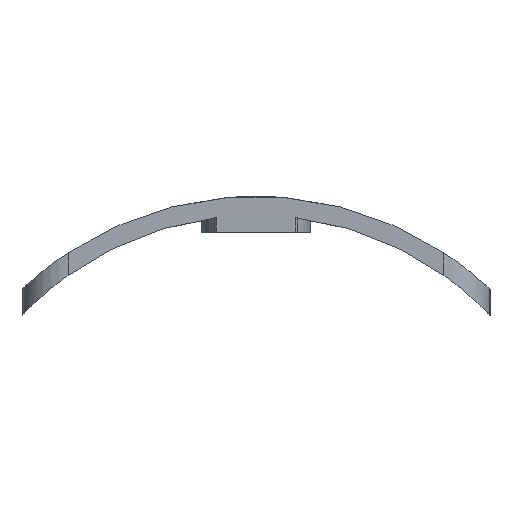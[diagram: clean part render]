
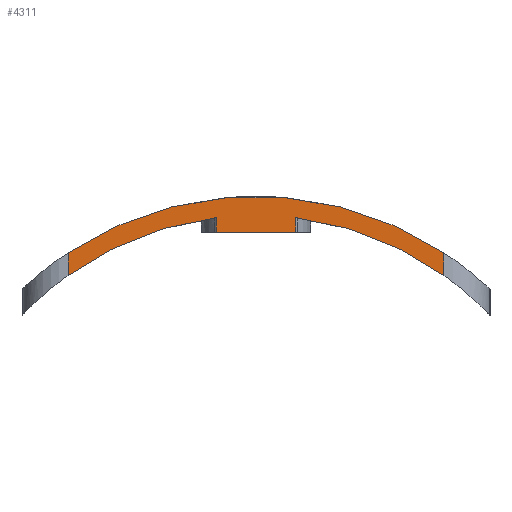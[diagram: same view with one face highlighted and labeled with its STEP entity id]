
A CAD part, left-side view. The second image highlights one B-rep face of the part: STEP entity #4311.
In plain terms, the highlighted planar face has unit normal (-1, 0, 0).
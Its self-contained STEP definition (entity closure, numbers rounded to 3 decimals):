
#22 = VERTEX_POINT('',#23);
#23 = CARTESIAN_POINT('',(96.3,11.,16.703));
#61 = CYLINDRICAL_SURFACE('',#62,20.);
#62 = AXIS2_PLACEMENT_3D('',#63,#64,#65);
#63 = CARTESIAN_POINT('',(95.,0.,0.));
#64 = DIRECTION('',(1.,0.,0.));
#65 = DIRECTION('',(-0.,0.,1.));
#102 = CYLINDRICAL_SURFACE('',#103,2.7);
#103 = AXIS2_PLACEMENT_3D('',#104,#105,#106);
#104 = CARTESIAN_POINT('',(99.,11.,5.));
#105 = DIRECTION('',(0.,0.,1.));
#106 = DIRECTION('',(-1.,-0.,0.));
#143 = EDGE_CURVE('',#22,#144,#146,.T.);
#144 = VERTEX_POINT('',#145);
#145 = CARTESIAN_POINT('',(96.3,-11.,16.703));
#146 = SURFACE_CURVE('',#147,(#152,#159),.PCURVE_S1.);
#147 = CIRCLE('',#148,20.);
#148 = AXIS2_PLACEMENT_3D('',#149,#150,#151);
#149 = CARTESIAN_POINT('',(96.3,0.,0.));
#150 = DIRECTION('',(1.,0.,0.));
#151 = DIRECTION('',(-0.,0.55,0.835));
#152 = PCURVE('',#61,#153);
#153 = DEFINITIONAL_REPRESENTATION('',(#154),#158);
#154 = LINE('',#155,#156);
#155 = CARTESIAN_POINT('',(5.701,1.3));
#156 = VECTOR('',#157,1.);
#157 = DIRECTION('',(1.,0.));
#158 = ( GEOMETRIC_REPRESENTATION_CONTEXT(2) 
PARAMETRIC_REPRESENTATION_CONTEXT() REPRESENTATION_CONTEXT('2D SPACE',''
  ) );
#159 = PCURVE('',#160,#165);
#160 = PLANE('',#161);
#161 = AXIS2_PLACEMENT_3D('',#162,#163,#164);
#162 = CARTESIAN_POINT('',(96.3,-13.7,5.));
#163 = DIRECTION('',(1.,0.,0.));
#164 = DIRECTION('',(0.,0.,1.));
#165 = DEFINITIONAL_REPRESENTATION('',(#166),#170);
#166 = CIRCLE('',#167,20.);
#167 = AXIS2_PLACEMENT_2D('',#168,#169);
#168 = CARTESIAN_POINT('',(-5.,-13.7));
#169 = DIRECTION('',(0.835,-0.55));
#170 = ( GEOMETRIC_REPRESENTATION_CONTEXT(2) 
PARAMETRIC_REPRESENTATION_CONTEXT() REPRESENTATION_CONTEXT('2D SPACE',''
  ) );
#246 = CYLINDRICAL_SURFACE('',#247,2.7);
#247 = AXIS2_PLACEMENT_3D('',#248,#249,#250);
#248 = CARTESIAN_POINT('',(99.,-11.,5.));
#249 = DIRECTION('',(0.,0.,1.));
#250 = DIRECTION('',(-1.,-0.,0.));
#2237 = PLANE('',#2238);
#2238 = AXIS2_PLACEMENT_3D('',#2239,#2240,#2241);
#2239 = CARTESIAN_POINT('',(98.5,0.,17.9));
#2240 = DIRECTION('',(0.,0.,1.));
#2241 = DIRECTION('',(1.,0.,-0.));
#2285 = VERTEX_POINT('',#2286);
#2286 = CARTESIAN_POINT('',(96.3,2.331,17.9));
#2300 = PLANE('',#2301);
#2301 = AXIS2_PLACEMENT_3D('',#2302,#2303,#2304);
#2302 = CARTESIAN_POINT('',(93.522,0.,17.9));
#2303 = DIRECTION('',(-0.643,0.766,0.));
#2304 = DIRECTION('',(0.766,0.643,0.));
#2312 = EDGE_CURVE('',#2285,#2313,#2315,.T.);
#2313 = VERTEX_POINT('',#2314);
#2314 = CARTESIAN_POINT('',(96.3,-2.331,17.9));
#2315 = SURFACE_CURVE('',#2316,(#2320,#2327),.PCURVE_S1.);
#2316 = LINE('',#2317,#2318);
#2317 = CARTESIAN_POINT('',(96.3,2.331,17.9));
#2318 = VECTOR('',#2319,1.);
#2319 = DIRECTION('',(0.,-1.,0.));
#2320 = PCURVE('',#2237,#2321);
#2321 = DEFINITIONAL_REPRESENTATION('',(#2322),#2326);
#2322 = LINE('',#2323,#2324);
#2323 = CARTESIAN_POINT('',(-2.2,2.331));
#2324 = VECTOR('',#2325,1.);
#2325 = DIRECTION('',(0.,-1.));
#2326 = ( GEOMETRIC_REPRESENTATION_CONTEXT(2) 
PARAMETRIC_REPRESENTATION_CONTEXT() REPRESENTATION_CONTEXT('2D SPACE',''
  ) );
#2327 = PCURVE('',#160,#2328);
#2328 = DEFINITIONAL_REPRESENTATION('',(#2329),#2333);
#2329 = LINE('',#2330,#2331);
#2330 = CARTESIAN_POINT('',(12.9,-16.031));
#2331 = VECTOR('',#2332,1.);
#2332 = DIRECTION('',(0.,1.));
#2333 = ( GEOMETRIC_REPRESENTATION_CONTEXT(2) 
PARAMETRIC_REPRESENTATION_CONTEXT() REPRESENTATION_CONTEXT('2D SPACE',''
  ) );
#2349 = PLANE('',#2350);
#2350 = AXIS2_PLACEMENT_3D('',#2351,#2352,#2353);
#2351 = CARTESIAN_POINT('',(96.443,-2.451,17.9));
#2352 = DIRECTION('',(-0.643,-0.766,0.));
#2353 = DIRECTION('',(-0.766,0.643,0.));
#2391 = VERTEX_POINT('',#2392);
#2392 = CARTESIAN_POINT('',(96.3,-2.331,18.756));
#2407 = CYLINDRICAL_SURFACE('',#2408,18.9);
#2408 = AXIS2_PLACEMENT_3D('',#2409,#2410,#2411);
#2409 = CARTESIAN_POINT('',(94.,0.,0.));
#2410 = DIRECTION('',(1.,0.,0.));
#2411 = DIRECTION('',(-0.,0.,1.));
#2422 = EDGE_CURVE('',#2313,#2391,#2423,.T.);
#2423 = SURFACE_CURVE('',#2424,(#2428,#2434),.PCURVE_S1.);
#2424 = LINE('',#2425,#2426);
#2425 = CARTESIAN_POINT('',(96.3,-2.331,8.95));
#2426 = VECTOR('',#2427,1.);
#2427 = DIRECTION('',(0.,0.,1.));
#2428 = PCURVE('',#2349,#2429);
#2429 = DEFINITIONAL_REPRESENTATION('',(#2430),#2433);
#2430 = B_SPLINE_CURVE_WITH_KNOTS('',1,(#2431,#2432),.UNSPECIFIED.,.F.,
  .F.,(2,2),(8.95,10.25),.PIECEWISE_BEZIER_KNOTS.);
#2431 = CARTESIAN_POINT('',(0.187,0.));
#2432 = CARTESIAN_POINT('',(0.187,-1.3));
#2433 = ( GEOMETRIC_REPRESENTATION_CONTEXT(2) 
PARAMETRIC_REPRESENTATION_CONTEXT() REPRESENTATION_CONTEXT('2D SPACE',''
  ) );
#2434 = PCURVE('',#160,#2435);
#2435 = DEFINITIONAL_REPRESENTATION('',(#2436),#2440);
#2436 = LINE('',#2437,#2438);
#2437 = CARTESIAN_POINT('',(3.95,-11.369));
#2438 = VECTOR('',#2439,1.);
#2439 = DIRECTION('',(1.,0.));
#2440 = ( GEOMETRIC_REPRESENTATION_CONTEXT(2) 
PARAMETRIC_REPRESENTATION_CONTEXT() REPRESENTATION_CONTEXT('2D SPACE',''
  ) );
#2704 = EDGE_CURVE('',#2391,#2705,#2707,.T.);
#2705 = VERTEX_POINT('',#2706);
#2706 = CARTESIAN_POINT('',(96.3,-11.,15.369));
#2707 = SURFACE_CURVE('',#2708,(#2713,#2719),.PCURVE_S1.);
#2708 = CIRCLE('',#2709,18.9);
#2709 = AXIS2_PLACEMENT_3D('',#2710,#2711,#2712);
#2710 = CARTESIAN_POINT('',(96.3,0.,0.));
#2711 = DIRECTION('',(1.,0.,0.));
#2712 = DIRECTION('',(-0.,0.,1.));
#2713 = PCURVE('',#2407,#2714);
#2714 = DEFINITIONAL_REPRESENTATION('',(#2715),#2718);
#2715 = B_SPLINE_CURVE_WITH_KNOTS('',1,(#2716,#2717),.UNSPECIFIED.,.F.,
  .F.,(2,2),(0.124,0.621),.PIECEWISE_BEZIER_KNOTS.);
#2716 = CARTESIAN_POINT('',(6.407,2.3));
#2717 = CARTESIAN_POINT('',(6.904,2.3));
#2718 = ( GEOMETRIC_REPRESENTATION_CONTEXT(2) 
PARAMETRIC_REPRESENTATION_CONTEXT() REPRESENTATION_CONTEXT('2D SPACE',''
  ) );
#2719 = PCURVE('',#160,#2720);
#2720 = DEFINITIONAL_REPRESENTATION('',(#2721),#2725);
#2721 = CIRCLE('',#2722,18.9);
#2722 = AXIS2_PLACEMENT_2D('',#2723,#2724);
#2723 = CARTESIAN_POINT('',(-5.,-13.7));
#2724 = DIRECTION('',(1.,0.));
#2725 = ( GEOMETRIC_REPRESENTATION_CONTEXT(2) 
PARAMETRIC_REPRESENTATION_CONTEXT() REPRESENTATION_CONTEXT('2D SPACE',''
  ) );
#3380 = VERTEX_POINT('',#3381);
#3381 = CARTESIAN_POINT('',(96.3,11.,15.369));
#3489 = EDGE_CURVE('',#3380,#3490,#3492,.T.);
#3490 = VERTEX_POINT('',#3491);
#3491 = CARTESIAN_POINT('',(96.3,2.331,18.756));
#3492 = SURFACE_CURVE('',#3493,(#3498,#3504),.PCURVE_S1.);
#3493 = CIRCLE('',#3494,18.9);
#3494 = AXIS2_PLACEMENT_3D('',#3495,#3496,#3497);
#3495 = CARTESIAN_POINT('',(96.3,0.,0.));
#3496 = DIRECTION('',(1.,0.,0.));
#3497 = DIRECTION('',(-0.,0.,1.));
#3498 = PCURVE('',#2407,#3499);
#3499 = DEFINITIONAL_REPRESENTATION('',(#3500),#3503);
#3500 = B_SPLINE_CURVE_WITH_KNOTS('',1,(#3501,#3502),.UNSPECIFIED.,.F.,
  .F.,(2,2),(5.662,6.16),.PIECEWISE_BEZIER_KNOTS.);
#3501 = CARTESIAN_POINT('',(5.662,2.3));
#3502 = CARTESIAN_POINT('',(6.16,2.3));
#3503 = ( GEOMETRIC_REPRESENTATION_CONTEXT(2) 
PARAMETRIC_REPRESENTATION_CONTEXT() REPRESENTATION_CONTEXT('2D SPACE',''
  ) );
#3504 = PCURVE('',#160,#3505);
#3505 = DEFINITIONAL_REPRESENTATION('',(#3506),#3510);
#3506 = CIRCLE('',#3507,18.9);
#3507 = AXIS2_PLACEMENT_2D('',#3508,#3509);
#3508 = CARTESIAN_POINT('',(-5.,-13.7));
#3509 = DIRECTION('',(1.,0.));
#3510 = ( GEOMETRIC_REPRESENTATION_CONTEXT(2) 
PARAMETRIC_REPRESENTATION_CONTEXT() REPRESENTATION_CONTEXT('2D SPACE',''
  ) );
#3873 = EDGE_CURVE('',#3490,#2285,#3874,.T.);
#3874 = SURFACE_CURVE('',#3875,(#3879,#3885),.PCURVE_S1.);
#3875 = LINE('',#3876,#3877);
#3876 = CARTESIAN_POINT('',(96.3,2.331,8.95));
#3877 = VECTOR('',#3878,1.);
#3878 = DIRECTION('',(-0.,0.,-1.));
#3879 = PCURVE('',#2300,#3880);
#3880 = DEFINITIONAL_REPRESENTATION('',(#3881),#3884);
#3881 = B_SPLINE_CURVE_WITH_KNOTS('',1,(#3882,#3883),.UNSPECIFIED.,.F.,
  .F.,(2,2),(-10.25,-8.95),.PIECEWISE_BEZIER_KNOTS.);
#3882 = CARTESIAN_POINT('',(3.627,-1.3));
#3883 = CARTESIAN_POINT('',(3.627,0.));
#3884 = ( GEOMETRIC_REPRESENTATION_CONTEXT(2) 
PARAMETRIC_REPRESENTATION_CONTEXT() REPRESENTATION_CONTEXT('2D SPACE',''
  ) );
#3885 = PCURVE('',#160,#3886);
#3886 = DEFINITIONAL_REPRESENTATION('',(#3887),#3891);
#3887 = LINE('',#3888,#3889);
#3888 = CARTESIAN_POINT('',(3.95,-16.031));
#3889 = VECTOR('',#3890,1.);
#3890 = DIRECTION('',(-1.,-0.));
#3891 = ( GEOMETRIC_REPRESENTATION_CONTEXT(2) 
PARAMETRIC_REPRESENTATION_CONTEXT() REPRESENTATION_CONTEXT('2D SPACE',''
  ) );
#4288 = EDGE_CURVE('',#2705,#144,#4289,.T.);
#4289 = SURFACE_CURVE('',#4290,(#4294,#4301),.PCURVE_S1.);
#4290 = LINE('',#4291,#4292);
#4291 = CARTESIAN_POINT('',(96.3,-11.,5.));
#4292 = VECTOR('',#4293,1.);
#4293 = DIRECTION('',(0.,0.,1.));
#4294 = PCURVE('',#246,#4295);
#4295 = DEFINITIONAL_REPRESENTATION('',(#4296),#4300);
#4296 = LINE('',#4297,#4298);
#4297 = CARTESIAN_POINT('',(0.,0.));
#4298 = VECTOR('',#4299,1.);
#4299 = DIRECTION('',(0.,1.));
#4300 = ( GEOMETRIC_REPRESENTATION_CONTEXT(2) 
PARAMETRIC_REPRESENTATION_CONTEXT() REPRESENTATION_CONTEXT('2D SPACE',''
  ) );
#4301 = PCURVE('',#160,#4302);
#4302 = DEFINITIONAL_REPRESENTATION('',(#4303),#4307);
#4303 = LINE('',#4304,#4305);
#4304 = CARTESIAN_POINT('',(0.,-2.7));
#4305 = VECTOR('',#4306,1.);
#4306 = DIRECTION('',(1.,0.));
#4307 = ( GEOMETRIC_REPRESENTATION_CONTEXT(2) 
PARAMETRIC_REPRESENTATION_CONTEXT() REPRESENTATION_CONTEXT('2D SPACE',''
  ) );
#4311 = ADVANCED_FACE('',(#4312),#160,.F.);
#4312 = FACE_BOUND('',#4313,.F.);
#4313 = EDGE_LOOP('',(#4314,#4315,#4316,#4317,#4318,#4319,#4320,#4321));
#4314 = ORIENTED_EDGE('',*,*,#143,.T.);
#4315 = ORIENTED_EDGE('',*,*,#4288,.F.);
#4316 = ORIENTED_EDGE('',*,*,#2704,.F.);
#4317 = ORIENTED_EDGE('',*,*,#2422,.F.);
#4318 = ORIENTED_EDGE('',*,*,#2312,.F.);
#4319 = ORIENTED_EDGE('',*,*,#3873,.F.);
#4320 = ORIENTED_EDGE('',*,*,#3489,.F.);
#4321 = ORIENTED_EDGE('',*,*,#4322,.T.);
#4322 = EDGE_CURVE('',#3380,#22,#4323,.T.);
#4323 = SURFACE_CURVE('',#4324,(#4328,#4335),.PCURVE_S1.);
#4324 = LINE('',#4325,#4326);
#4325 = CARTESIAN_POINT('',(96.3,11.,5.));
#4326 = VECTOR('',#4327,1.);
#4327 = DIRECTION('',(0.,0.,1.));
#4328 = PCURVE('',#160,#4329);
#4329 = DEFINITIONAL_REPRESENTATION('',(#4330),#4334);
#4330 = LINE('',#4331,#4332);
#4331 = CARTESIAN_POINT('',(0.,-24.7));
#4332 = VECTOR('',#4333,1.);
#4333 = DIRECTION('',(1.,0.));
#4334 = ( GEOMETRIC_REPRESENTATION_CONTEXT(2) 
PARAMETRIC_REPRESENTATION_CONTEXT() REPRESENTATION_CONTEXT('2D SPACE',''
  ) );
#4335 = PCURVE('',#102,#4336);
#4336 = DEFINITIONAL_REPRESENTATION('',(#4337),#4341);
#4337 = LINE('',#4338,#4339);
#4338 = CARTESIAN_POINT('',(-0.,0.));
#4339 = VECTOR('',#4340,1.);
#4340 = DIRECTION('',(-0.,1.));
#4341 = ( GEOMETRIC_REPRESENTATION_CONTEXT(2) 
PARAMETRIC_REPRESENTATION_CONTEXT() REPRESENTATION_CONTEXT('2D SPACE',''
  ) );
